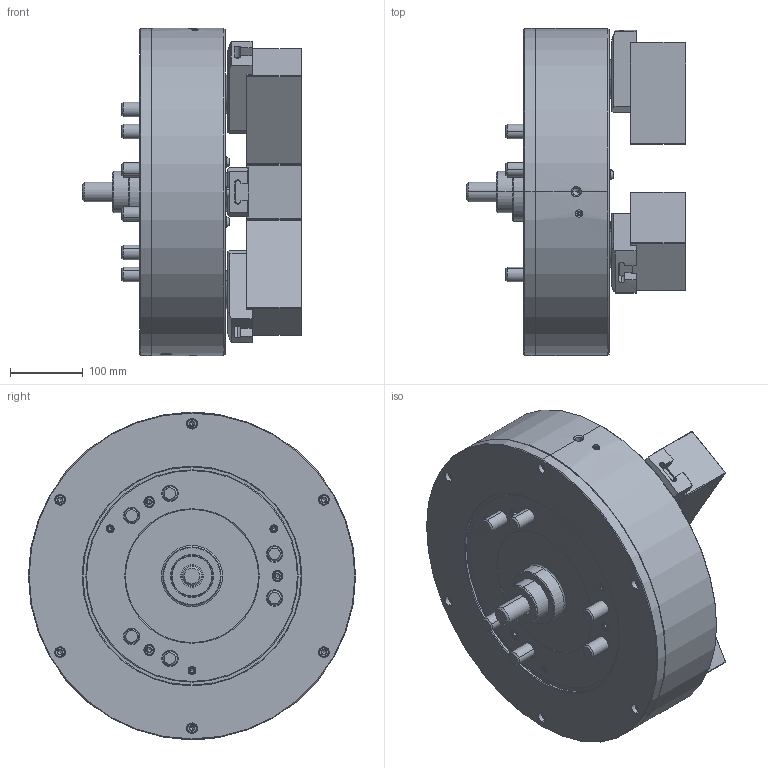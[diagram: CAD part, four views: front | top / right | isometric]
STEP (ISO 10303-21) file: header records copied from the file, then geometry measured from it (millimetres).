
FILE_DESCRIPTION (( 'STEP AP214' ), '1' );
FILE_NAME ('PW-18_CL_OD.STEP', '2024-02-07T06:56:50', ( '' ), ( '' ), 'SwSTEP 2.0', 'SolidWorks 2022', '' );
FILE_SCHEMA (( 'AUTOMOTIVE_DESIGN' ));
Length unit declared in the file: millimetre
Products named in the file (9): PW-18_CL_OD; 0030127150; 0030120030; 61P326096; 0030120120; 61P422878; 61P422887; 0033108012; PW-18_結合_OD
Assembly tree (24 placements, depth 2):
  PW-18_CL_OD
    61P422887
    61P326096  x3
    61P422878  x3
    0030120030  x6
    0030120120  x6
    0030127150
    0033108012  x3
    PW-18_結合_OD
Bounding box: 302 x 450 x 450 mm (x, y, z)
Volume: 21086384.7 mm3; surface area: 1024689.2 mm2
Topology: 24 solids, 27 shells, 3956 faces, 10330 edges, 6697 vertices
Faces by surface type: plane 1961, bspline 960, cone 554, cylinder 441, torus 32, sphere 8
Entity records: 144596 total; most frequent: CARTESIAN_POINT 62728, ORIENTED_EDGE 18740, DIRECTION 13229, EDGE_CURVE 9370, VERTEX_POINT 6137, VECTOR 5567, LINE 5567, EDGE_LOOP 3903
